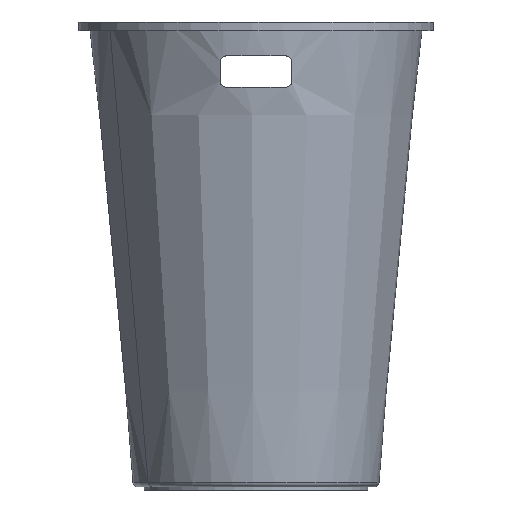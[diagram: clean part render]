
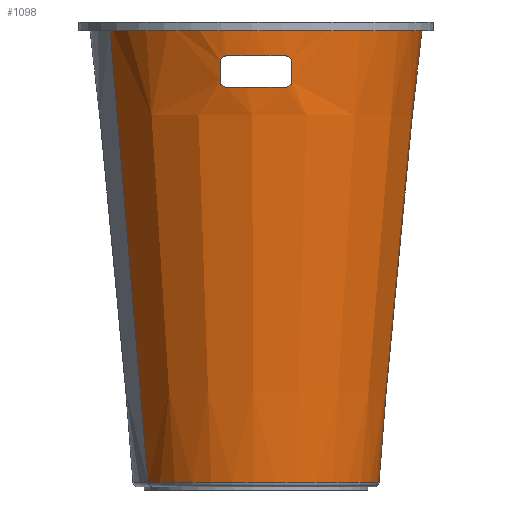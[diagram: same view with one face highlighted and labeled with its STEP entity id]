
A CAD part, left-side view. The second image highlights one B-rep face of the part: STEP entity #1098.
In plain terms, the highlighted conical face has half-angle 5.458 degrees and reference radius 152.5 mm.
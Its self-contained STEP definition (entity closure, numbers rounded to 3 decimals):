
#135=CARTESIAN_POINT('Axis2P3D Location',(0.,0.,5.429)) ;
#140=CARTESIAN_POINT('Line Origine',(-86.134,157.668,289.715)) ;
#144=CARTESIAN_POINT('Vertex',(-73.112,133.831,5.429)) ;
#146=CARTESIAN_POINT('Vertex',(-99.156,181.504,574.)) ;
#153=CARTESIAN_POINT('Vertex',(99.156,-181.504,574.)) ;
#156=CARTESIAN_POINT('Line Origine',(86.134,-157.668,289.715)) ;
#160=CARTESIAN_POINT('Vertex',(73.112,-133.831,5.429)) ;
#689=CARTESIAN_POINT('Vertex',(-197.28,44.5,526.)) ;
#693=CARTESIAN_POINT('Control Point',(-195.027,44.5,503.)) ;
#694=CARTESIAN_POINT('Control Point',(-195.477,44.5,507.6)) ;
#695=CARTESIAN_POINT('Control Point',(-195.928,44.5,512.2)) ;
#696=CARTESIAN_POINT('Control Point',(-196.379,44.5,516.8)) ;
#697=CARTESIAN_POINT('Control Point',(-196.829,44.5,521.4)) ;
#698=CARTESIAN_POINT('Control Point',(-197.28,44.5,526.)) ;
#699=CARTESIAN_POINT('Vertex',(-195.027,44.5,503.)) ;
#730=CARTESIAN_POINT('Vertex',(-199.693,36.5,534.)) ;
#734=CARTESIAN_POINT('Control Point',(-197.28,44.5,526.)) ;
#735=CARTESIAN_POINT('Control Point',(-197.522,44.5,528.476)) ;
#736=CARTESIAN_POINT('Control Point',(-197.978,43.54,530.925)) ;
#737=CARTESIAN_POINT('Control Point',(-198.601,41.664,532.939)) ;
#738=CARTESIAN_POINT('Control Point',(-199.219,39.092,534.)) ;
#739=CARTESIAN_POINT('Control Point',(-199.693,36.5,534.)) ;
#762=CARTESIAN_POINT('Vertex',(-199.693,-36.5,534.)) ;
#765=CARTESIAN_POINT('Axis2P3D Location',(0.,0.,534.)) ;
#793=CARTESIAN_POINT('Vertex',(-195.903,-36.5,495.)) ;
#797=CARTESIAN_POINT('Control Point',(-195.027,-44.5,503.)) ;
#798=CARTESIAN_POINT('Control Point',(-194.786,-44.5,500.544)) ;
#799=CARTESIAN_POINT('Control Point',(-194.756,-43.566,498.071)) ;
#800=CARTESIAN_POINT('Control Point',(-195.005,-41.617,496.014)) ;
#801=CARTESIAN_POINT('Control Point',(-195.429,-39.049,495.)) ;
#802=CARTESIAN_POINT('Control Point',(-195.903,-36.5,495.)) ;
#803=CARTESIAN_POINT('Vertex',(-195.027,-44.5,503.)) ;
#834=CARTESIAN_POINT('Vertex',(-195.903,36.5,495.)) ;
#837=CARTESIAN_POINT('Axis2P3D Location',(0.,0.,495.)) ;
#915=CARTESIAN_POINT('Control Point',(-195.027,44.5,503.)) ;
#916=CARTESIAN_POINT('Control Point',(-194.786,44.5,500.544)) ;
#917=CARTESIAN_POINT('Control Point',(-194.756,43.566,498.071)) ;
#918=CARTESIAN_POINT('Control Point',(-195.005,41.617,496.014)) ;
#919=CARTESIAN_POINT('Control Point',(-195.429,39.049,495.)) ;
#920=CARTESIAN_POINT('Control Point',(-195.903,36.5,495.)) ;
#938=CARTESIAN_POINT('Control Point',(-195.027,-44.5,503.)) ;
#939=CARTESIAN_POINT('Control Point',(-195.477,-44.5,507.6)) ;
#940=CARTESIAN_POINT('Control Point',(-195.928,-44.5,512.2)) ;
#941=CARTESIAN_POINT('Control Point',(-196.379,-44.5,516.8)) ;
#942=CARTESIAN_POINT('Control Point',(-196.829,-44.5,521.4)) ;
#943=CARTESIAN_POINT('Control Point',(-197.28,-44.5,526.)) ;
#944=CARTESIAN_POINT('Vertex',(-197.28,-44.5,526.)) ;
#970=CARTESIAN_POINT('Control Point',(-197.28,-44.5,526.)) ;
#971=CARTESIAN_POINT('Control Point',(-197.522,-44.5,528.476)) ;
#972=CARTESIAN_POINT('Control Point',(-197.978,-43.54,530.925)) ;
#973=CARTESIAN_POINT('Control Point',(-198.601,-41.664,532.939)) ;
#974=CARTESIAN_POINT('Control Point',(-199.219,-39.092,534.)) ;
#975=CARTESIAN_POINT('Control Point',(-199.693,-36.5,534.)) ;
#1036=CARTESIAN_POINT('Axis2P3D Location',(0.,0.,5.429)) ;
#1072=CARTESIAN_POINT('Axis2P3D Location',(0.,0.,574.)) ;
#136=DIRECTION('Axis2P3D Direction',(0.,0.,1.)) ;
#137=DIRECTION('Axis2P3D XDirection',(-0.479,0.878,0.)) ;
#141=DIRECTION('Vector Direction',(-0.046,0.083,0.995)) ;
#157=DIRECTION('Vector Direction',(0.046,-0.083,0.995)) ;
#766=DIRECTION('Axis2P3D Direction',(0.,-0.,1.)) ;
#838=DIRECTION('Axis2P3D Direction',(-0.,-0.,-1.)) ;
#1037=DIRECTION('Axis2P3D Direction',(0.,0.,1.)) ;
#1073=DIRECTION('Axis2P3D Direction',(0.,0.,1.)) ;
#138=AXIS2_PLACEMENT_3D('Cone Axis2P3D',#135,#136,#137) ;
#767=AXIS2_PLACEMENT_3D('Circle Axis2P3D',#765,#766,$) ;
#839=AXIS2_PLACEMENT_3D('Circle Axis2P3D',#837,#838,$) ;
#1038=AXIS2_PLACEMENT_3D('Circle Axis2P3D',#1036,#1037,$) ;
#1074=AXIS2_PLACEMENT_3D('Circle Axis2P3D',#1072,#1073,$) ;
#1083=ORIENTED_EDGE('',*,*,#162,.T.) ;
#1084=ORIENTED_EDGE('',*,*,#1076,.F.) ;
#1085=ORIENTED_EDGE('',*,*,#148,.F.) ;
#1086=ORIENTED_EDGE('',*,*,#1040,.T.) ;
#1089=ORIENTED_EDGE('',*,*,#701,.T.) ;
#1090=ORIENTED_EDGE('',*,*,#740,.T.) ;
#1091=ORIENTED_EDGE('',*,*,#769,.T.) ;
#1092=ORIENTED_EDGE('',*,*,#976,.F.) ;
#1093=ORIENTED_EDGE('',*,*,#946,.F.) ;
#1094=ORIENTED_EDGE('',*,*,#805,.T.) ;
#1095=ORIENTED_EDGE('',*,*,#841,.T.) ;
#1096=ORIENTED_EDGE('',*,*,#921,.F.) ;
#1097=FACE_BOUND('',#1088,.T.) ;
#142=VECTOR('Line Direction',#141,1.) ;
#158=VECTOR('Line Direction',#157,1.) ;
#1098=ADVANCED_FACE('PartBody',(#1087,#1097),#139,.T.) ;
#692=B_SPLINE_CURVE_WITH_KNOTS('',5,(#693,#694,#695,#696,#697,#698),.UNSPECIFIED.,.F.,.U.,(6,6),(0.,32.682),.UNSPECIFIED.) ;
#733=B_SPLINE_CURVE_WITH_KNOTS('',5,(#734,#735,#736,#737,#738,#739),.UNSPECIFIED.,.F.,.U.,(6,6),(0.,17.595),.UNSPECIFIED.) ;
#796=B_SPLINE_CURVE_WITH_KNOTS('',5,(#797,#798,#799,#800,#801,#802),.UNSPECIFIED.,.F.,.U.,(6,6),(0.,17.453),.UNSPECIFIED.) ;
#914=B_SPLINE_CURVE_WITH_KNOTS('',5,(#915,#916,#917,#918,#919,#920),.UNSPECIFIED.,.F.,.U.,(6,6),(0.,17.453),.UNSPECIFIED.) ;
#937=B_SPLINE_CURVE_WITH_KNOTS('',5,(#938,#939,#940,#941,#942,#943),.UNSPECIFIED.,.F.,.U.,(6,6),(0.,32.682),.UNSPECIFIED.) ;
#969=B_SPLINE_CURVE_WITH_KNOTS('',5,(#970,#971,#972,#973,#974,#975),.UNSPECIFIED.,.F.,.U.,(6,6),(0.,17.595),.UNSPECIFIED.) ;
#768=CIRCLE('generated circle',#767,203.001) ;
#840=CIRCLE('generated circle',#839,199.275) ;
#1039=CIRCLE('generated circle',#1038,152.5) ;
#1075=CIRCLE('generated circle',#1074,206.823) ;
#139=CONICAL_SURFACE('Cone',#138,152.5,0.095) ;
#148=EDGE_CURVE('',#145,#147,#143,.T.) ;
#162=EDGE_CURVE('',#161,#154,#159,.T.) ;
#701=EDGE_CURVE('',#700,#690,#692,.T.) ;
#740=EDGE_CURVE('',#690,#731,#733,.T.) ;
#769=EDGE_CURVE('',#731,#763,#768,.T.) ;
#805=EDGE_CURVE('',#804,#794,#796,.T.) ;
#841=EDGE_CURVE('',#794,#835,#840,.T.) ;
#921=EDGE_CURVE('',#700,#835,#914,.T.) ;
#946=EDGE_CURVE('',#804,#945,#937,.T.) ;
#976=EDGE_CURVE('',#945,#763,#969,.T.) ;
#1040=EDGE_CURVE('',#145,#161,#1039,.T.) ;
#1076=EDGE_CURVE('',#147,#154,#1075,.T.) ;
#1082=EDGE_LOOP('',(#1083,#1084,#1085,#1086)) ;
#1088=EDGE_LOOP('',(#1089,#1090,#1091,#1092,#1093,#1094,#1095,#1096)) ;
#1087=FACE_OUTER_BOUND('',#1082,.T.) ;
#143=LINE('Line',#140,#142) ;
#159=LINE('Line',#156,#158) ;
#145=VERTEX_POINT('',#144) ;
#147=VERTEX_POINT('',#146) ;
#154=VERTEX_POINT('',#153) ;
#161=VERTEX_POINT('',#160) ;
#690=VERTEX_POINT('',#689) ;
#700=VERTEX_POINT('',#699) ;
#731=VERTEX_POINT('',#730) ;
#763=VERTEX_POINT('',#762) ;
#794=VERTEX_POINT('',#793) ;
#804=VERTEX_POINT('',#803) ;
#835=VERTEX_POINT('',#834) ;
#945=VERTEX_POINT('',#944) ;
